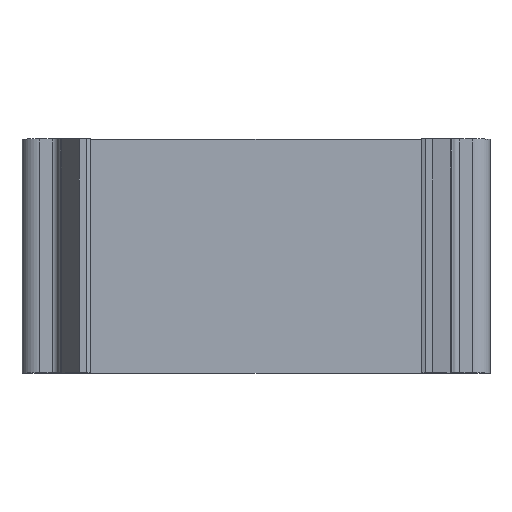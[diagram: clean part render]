
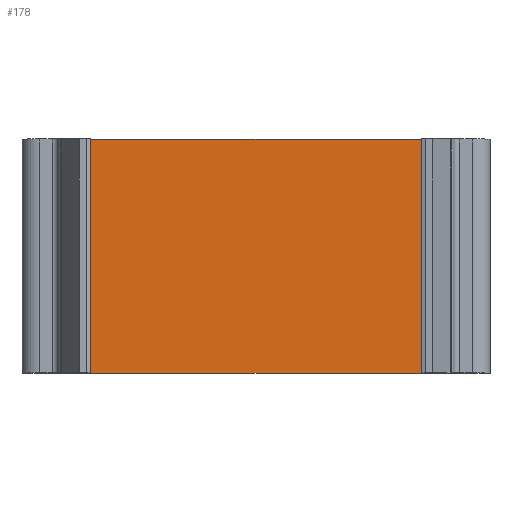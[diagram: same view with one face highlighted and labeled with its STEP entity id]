
A CAD part, top view. The second image highlights one B-rep face of the part: STEP entity #178.
In plain terms, the highlighted planar face has unit normal (0, 0, 1).
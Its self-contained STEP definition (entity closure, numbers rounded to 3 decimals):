
#178=ADVANCED_FACE('',(#343),#344,.T.);
#343=FACE_OUTER_BOUND('',#496,.T.);
#344=PLANE('',#497);
#496=EDGE_LOOP('',(#837,#838,#839,#840));
#497=AXIS2_PLACEMENT_3D('',#841,#842,#843);
#837=ORIENTED_EDGE('',*,*,#1129,.T.);
#838=ORIENTED_EDGE('',*,*,#1041,.T.);
#839=ORIENTED_EDGE('',*,*,#1130,.F.);
#840=ORIENTED_EDGE('',*,*,#1126,.T.);
#841=CARTESIAN_POINT('',(-8.0,10.0,-8.5));
#842=DIRECTION('',(0.0,0.0,1.0));
#843=DIRECTION('',(-1.0,0.0,-0.0));
#1041=EDGE_CURVE('',#1259,#1257,#1260,.T.);
#1126=EDGE_CURVE('',#1388,#1386,#1389,.T.);
#1129=EDGE_CURVE('',#1386,#1259,#1392,.T.);
#1130=EDGE_CURVE('',#1388,#1257,#1393,.T.);
#1257=VERTEX_POINT('',#1565);
#1259=VERTEX_POINT('',#1567);
#1260=LINE('',#1568,#1569);
#1386=VERTEX_POINT('',#1740);
#1388=VERTEX_POINT('',#1742);
#1389=LINE('',#1743,#1744);
#1392=LINE('',#1747,#1748);
#1393=LINE('',#1749,#1750);
#1565=CARTESIAN_POINT('',(16.0,10.0,-8.5));
#1567=CARTESIAN_POINT('',(16.0,-10.0,-8.5));
#1568=CARTESIAN_POINT('',(16.0,-10.0,-8.5));
#1569=VECTOR('',#1861,1.0);
#1740=CARTESIAN_POINT('',(-16.0,-10.0,-8.5));
#1742=CARTESIAN_POINT('',(-16.0,10.0,-8.5));
#1743=CARTESIAN_POINT('',(-16.0,10.0,-8.5));
#1744=VECTOR('',#1961,1.0);
#1747=CARTESIAN_POINT('',(-16.0,-10.0,-8.5));
#1748=VECTOR('',#1965,1.0);
#1749=CARTESIAN_POINT('',(-16.0,10.0,-8.5));
#1750=VECTOR('',#1966,1.0);
#1861=DIRECTION('',(0.0,1.0,0.0));
#1961=DIRECTION('',(0.0,-1.0,0.0));
#1965=DIRECTION('',(1.0,0.0,0.0));
#1966=DIRECTION('',(1.0,0.0,0.0));
